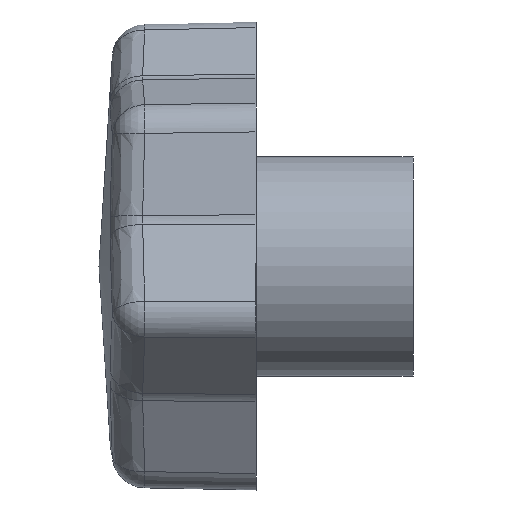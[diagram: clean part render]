
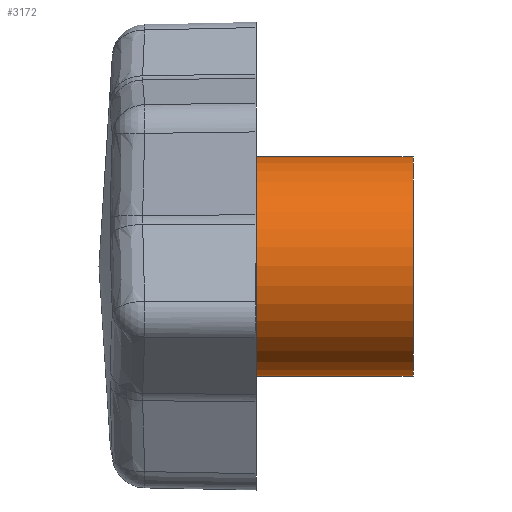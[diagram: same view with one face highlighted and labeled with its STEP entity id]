
A CAD part, left-side view. The second image highlights one B-rep face of the part: STEP entity #3172.
In plain terms, the highlighted cylindrical face has radius 7 mm (diameter 14 mm), a partial arc.
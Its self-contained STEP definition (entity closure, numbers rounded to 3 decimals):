
#93 = CARTESIAN_POINT ( 'NONE',  ( 0., 7.553, 7. ) ) ;
#115 = VERTEX_POINT ( 'NONE', #2606 ) ;
#357 = ORIENTED_EDGE ( 'NONE', *, *, #4141, .T. ) ;
#492 = DIRECTION ( 'NONE',  ( 0., 0., -1. ) ) ;
#519 = VERTEX_POINT ( 'NONE', #1591 ) ;
#631 = CIRCLE ( 'NONE', #669, 7. ) ;
#669 = AXIS2_PLACEMENT_3D ( 'NONE', #1586, #4244, #1963 ) ;
#892 = VECTOR ( 'NONE', #1541, 1000. ) ;
#918 = VERTEX_POINT ( 'NONE', #1987 ) ;
#1176 = ORIENTED_EDGE ( 'NONE', *, *, #1996, .T. ) ;
#1302 = EDGE_CURVE ( 'NONE', #4990, #115, #3045, .T. ) ;
#1370 = EDGE_CURVE ( 'NONE', #4990, #519, #631, .T. ) ;
#1541 = DIRECTION ( 'NONE',  ( 0., -1., 0. ) ) ;
#1586 = CARTESIAN_POINT ( 'NONE',  ( 0., 7.553, 0. ) ) ;
#1591 = CARTESIAN_POINT ( 'NONE',  ( 0., 7.553, -7. ) ) ;
#1657 = CIRCLE ( 'NONE', #1712, 7. ) ;
#1712 = AXIS2_PLACEMENT_3D ( 'NONE', #4303, #2017, #4678 ) ;
#1721 = CARTESIAN_POINT ( 'NONE',  ( 0., 10.001, -7. ) ) ;
#1818 = ORIENTED_EDGE ( 'NONE', *, *, #1370, .T. ) ;
#1927 = LINE ( 'NONE', #1721, #4784 ) ;
#1963 = DIRECTION ( 'NONE',  ( 0., 0., -1. ) ) ;
#1987 = CARTESIAN_POINT ( 'NONE',  ( 0., -10., -7. ) ) ;
#1996 = EDGE_CURVE ( 'NONE', #918, #115, #1657, .T. ) ;
#2017 = DIRECTION ( 'NONE',  ( 0., 1., 0. ) ) ;
#2198 = ORIENTED_EDGE ( 'NONE', *, *, #1302, .F. ) ;
#2518 = CYLINDRICAL_SURFACE ( 'NONE', #2662, 7. ) ;
#2606 = CARTESIAN_POINT ( 'NONE',  ( 0., -10., 7. ) ) ;
#2662 = AXIS2_PLACEMENT_3D ( 'NONE', #4333, #3983, #492 ) ;
#3045 = LINE ( 'NONE', #4192, #892 ) ;
#3172 = ADVANCED_FACE ( 'NONE', ( #4547 ), #2518, .T. ) ;
#3507 = EDGE_LOOP ( 'NONE', ( #2198, #1818, #357, #1176 ) ) ;
#3606 = DIRECTION ( 'NONE',  ( 0., -1., 0. ) ) ;
#3983 = DIRECTION ( 'NONE',  ( 0., -1., 0. ) ) ;
#4141 = EDGE_CURVE ( 'NONE', #519, #918, #1927, .T. ) ;
#4192 = CARTESIAN_POINT ( 'NONE',  ( 0., 10.001, 7. ) ) ;
#4244 = DIRECTION ( 'NONE',  ( 0., -1., 0. ) ) ;
#4303 = CARTESIAN_POINT ( 'NONE',  ( 0., -10., 0. ) ) ;
#4333 = CARTESIAN_POINT ( 'NONE',  ( 0., 10.001, 0. ) ) ;
#4547 = FACE_OUTER_BOUND ( 'NONE', #3507, .T. ) ;
#4678 = DIRECTION ( 'NONE',  ( 0., 0., 1. ) ) ;
#4784 = VECTOR ( 'NONE', #3606, 1000. ) ;
#4990 = VERTEX_POINT ( 'NONE', #93 ) ;
